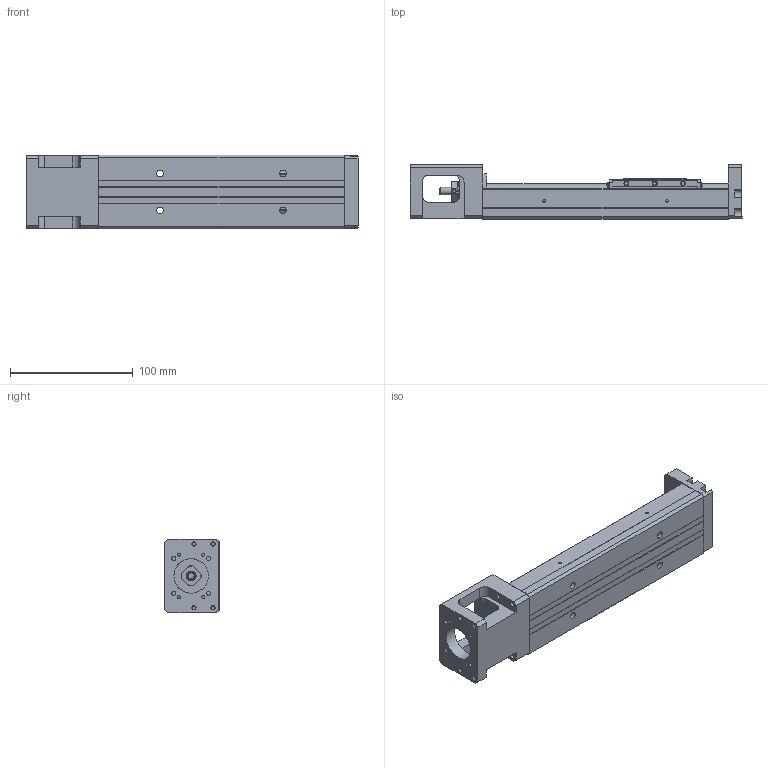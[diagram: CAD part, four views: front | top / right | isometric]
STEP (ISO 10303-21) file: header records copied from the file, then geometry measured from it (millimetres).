
FILE_DESCRIPTION(/* description */ (''),/* implementation_level */ '2;1');
FILE_NAME(/* name */ 'KP33N-200.stp',/* time_stamp */ '2020-06-04T13:57:31+08:00',/* author */ (''),/* organization */ (''),/* preprocessor_version */ 'ST-DEVELOPER v14',/* originating_system */ 'SIEMENS PLM Software NX 8.0',/* authorisation */ '');
FILE_SCHEMA (('AUTOMOTIVE_DESIGN { 1 0 10303 214 3 1 1 1 }'));
Length unit declared in the file: millimetre
Products named in the file (1): model1
Bounding box: 270 x 44.45 x 60 mm (x, y, z)
Volume: 353746.5 mm3; surface area: 99588 mm2
Topology: 5 solids, 10 shells, 619 faces, 1582 edges, 1042 vertices
Faces by surface type: plane 363, cylinder 169, bspline 31, cone 24, extrusion 21, torus 9, revolution 2
Full cylindrical faces by diameter (mm): 1.6 x2, 1.65 x4, 2.15 x2, 2.42 x4, 2.45 x4, 2.5 x8, 3 x3, 3.2 x4, 3.3 x4, 3.4 x3, 3.5 x10, 3.969 x1, 4 x6, 4.001 x1, 4.135 x4, 5.5 x4, 6 x5, 7.6 x1, 8 x5, 9.5 x4, 10.72 x3, 11.8 x2, 12 x6, 12.8 x1, 13 x2, 14 x1, 17.38 x3, 21.5 x1, 22 x2, 28 x1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
Entity records: 32915 total; most frequent: CARTESIAN_POINT 15410, DIRECTION 2804, ORIENTED_EDGE 2754, EDGE_CURVE 1377, AXIS2_PLACEMENT_3D 980, VERTEX_POINT 973, EDGE_LOOP 868, VECTOR 842
